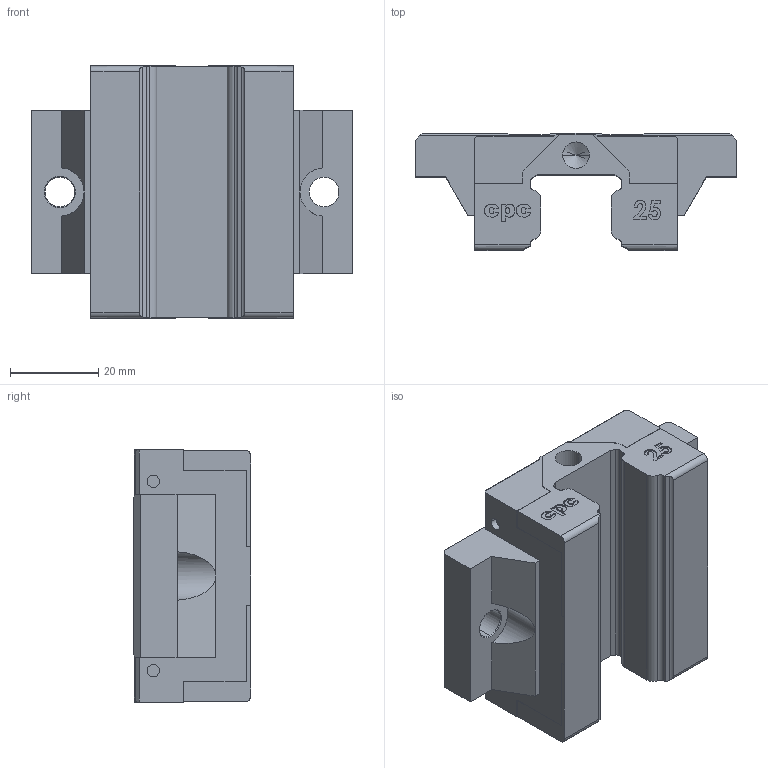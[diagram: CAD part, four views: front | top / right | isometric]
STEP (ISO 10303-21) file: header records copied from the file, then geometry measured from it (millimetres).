
FILE_DESCRIPTION (( 'STEP AP203' ), '1' );
FILE_NAME ('AR25FS.STEP', '2009-08-04T05:24:40', ( 'cpc' ), ( '' ), 'SwSTEP 2.0', 'SolidWorks 2007', '' );
FILE_SCHEMA (( 'CONFIG_CONTROL_DESIGN' ));
Length unit declared in the file: millimetre
Products named in the file (1): AR25FS
Bounding box: 73 x 26.6 x 57.2 mm (x, y, z)
Volume: 62667.9 mm3; surface area: 15142.4 mm2
Topology: 1 solids, 1 shells, 302 faces, 828 edges, 546 vertices
Faces by surface type: plane 156, bspline 86, cylinder 50, cone 10
Entity records: 13953 total; most frequent: CARTESIAN_POINT 6779, ORIENTED_EDGE 1648, DIRECTION 1158, EDGE_CURVE 824, VERTEX_POINT 546, LINE 540, VECTOR 540, EDGE_LOOP 328
